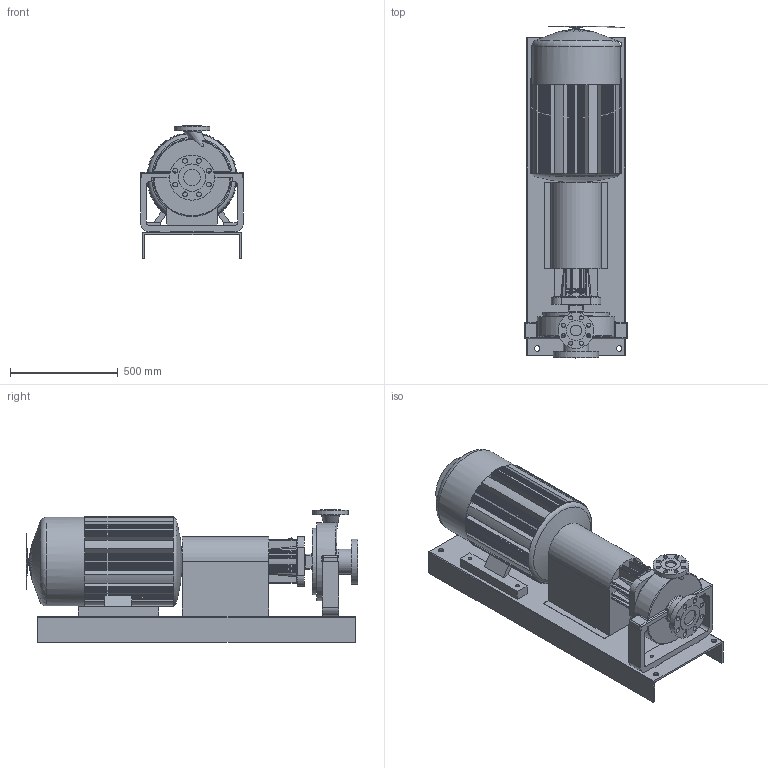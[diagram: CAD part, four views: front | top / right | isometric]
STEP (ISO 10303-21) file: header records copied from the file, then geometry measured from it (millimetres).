
FILE_DESCRIPTION(/* description */ ('Unknown'),/* implementation_level */ '2;1');
FILE_NAME(/* name */ 'CTP 2x3x10 365TS',/* time_stamp */ '2016-02-18T11:22:27+01:00',/* author */ ('Unknown'),/* organization */ ('Unknown'),/* preprocessor_version */ 'ST-DEVELOPER v16',/* originating_system */ 'DEX',/* authorisation */ $);
FILE_SCHEMA (('AUTOMOTIVE_DESIGN { 1 0 10303 214 3 1 1 }','AUTOMOTIVE_DESIGN {1 0 10303 214 3 1 1}'));
Products named in the file (1): Maatschets3D CTP
Bounding box: 476.25 x 1539.84 x 615.95 mm (x, y, z)
Volume: 109775217.5 mm3; surface area: 7302324.4 mm2
Topology: 1 solids, 1 shells, 1651 faces, 4216 edges, 2523 vertices
Faces by surface type: plane 1156, cylinder 301, bspline 139, sphere 31, torus 22, cone 2
Full cylindrical faces by diameter (mm): 16 x2, 16.764 x4, 19.05 x8, 22.225 x8, 25 x4, 50.8 x1, 57.625 x1, 76.2 x1, 92.075 x1, 117 x1, 127 x1, 165.1 x1, 209.55 x1, 235 x1, 280 x1, 309 x1, 361 x1, 411.48 x1
Entity records: 67019 total; most frequent: CARTESIAN_POINT 16471, ORIENTED_EDGE 8156, DIRECTION 8059, EDGE_CURVE 4078, AXIS2_PLACEMENT_3D 2730, LINE 2599, VECTOR 2599, VERTEX_POINT 2493
